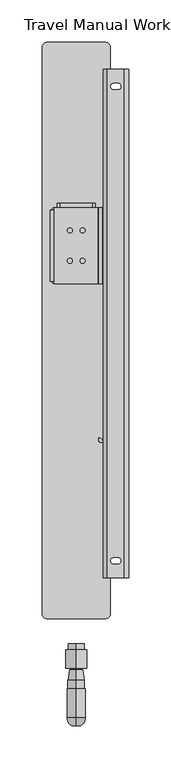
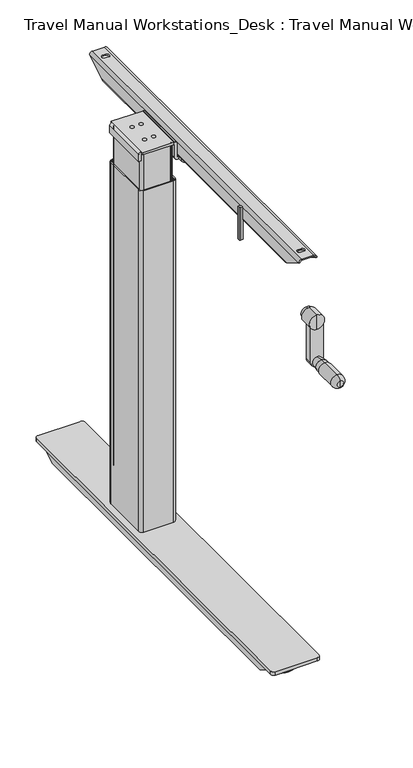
"""IFC4 building model written with IfcOpenShell, lengths in millimetres: furniture geometry, Travel Manual Workstations_Desk : Travel Manual Workstations_Desk."""

from ifc_helpers import new_model, si_unit, point, frame, frame_2d, origin, place, context, project, spatial, polyline, circle_curve, ellipse_curve, trimmed, segment, composite_curve, outline, extrude, source, transform, mapped, element, save
from ifc_brep_helpers import plane_surface, cylinder_surface, revolved_surface, advanced_brep


def travel_manual_workstations_desk_travel_manual_workstations_a020447c(model_context):
    return source(origin(), model_context, "Body", "SolidModel", [
        extrude(outline(polyline([(636.7501182, 65.2500452), (636.7501182, 154.7501055), (688.2501113, 154.7501055), (688.2501113, 65.2500452), (636.7501182, 65.2500452)]), holes=[composite_curve([segment(trimmed(circle_curve(frame_2d((670.5499704, 127.9408107)), 3.0), [point((673.5499704, 127.9408107))], [point((667.5499704, 127.9408107))], True, "CARTESIAN"), True, "CONTINUOUS"), segment(trimmed(circle_curve(frame_2d((670.5499704, 127.9408107)), 3.0), [point((667.5499704, 127.9408107))], [point((673.5499704, 127.9408107))], True, "CARTESIAN"), True, "CONTINUOUS")], self_intersect=False), composite_curve([segment(trimmed(circle_curve(frame_2d((655.5499704, 127.9408107)), 3.0), [point((658.5499704, 127.9408107))], [point((652.5499704, 127.9408107))], True, "CARTESIAN"), True, "CONTINUOUS"), segment(trimmed(circle_curve(frame_2d((655.5499704, 127.9408107)), 3.0), [point((652.5499704, 127.9408107))], [point((658.5499704, 127.9408107))], True, "CARTESIAN"), True, "CONTINUOUS")], self_intersect=False), composite_curve([segment(trimmed(circle_curve(frame_2d((670.5499704, 92.05934)), 3.0), [point((673.5499704, 92.05934))], [point((667.5499704, 92.05934))], True, "CARTESIAN"), True, "CONTINUOUS"), segment(trimmed(circle_curve(frame_2d((670.5499704, 92.05934)), 3.0), [point((667.5499704, 92.05934))], [point((673.5499704, 92.05934))], True, "CARTESIAN"), True, "CONTINUOUS")], self_intersect=False), composite_curve([segment(trimmed(circle_curve(frame_2d((655.5499704, 92.05934)), 3.0), [point((658.5499704, 92.05934))], [point((652.5499704, 92.05934))], True, "CARTESIAN"), True, "CONTINUOUS"), segment(trimmed(circle_curve(frame_2d((655.5499704, 92.05934)), 3.0), [point((652.5499704, 92.05934))], [point((658.5499704, 92.05934))], True, "CARTESIAN"), True, "CONTINUOUS")], self_intersect=False)]), frame((0.0, 0.0, 688.9999966), z_axis=(0.0, 0.0, 1.0), x_axis=(1.0, 0.0, 0.0)), (0.0, 0.0, 1.0), 3.9999739),
        extrude(outline(composite_curve([segment(polyline([(702.2500954, 166.7500998), (717.7501014, 166.7500998)]), True, "CONTINUOUS"), segment(trimmed(circle_curve(frame_2d((717.7501014, 161.7500998)), 5.0), [point((717.7501014, 166.7500998))], [point((722.7501014, 161.7500998))], False, "CARTESIAN"), True, "CONTINUOUS"), segment(polyline([(722.7501014, 161.7500998), (722.7501014, 58.2500509)]), True, "CONTINUOUS"), segment(trimmed(circle_curve(frame_2d((717.7501014, 58.2500509)), 5.0), [point((722.7501014, 58.2500509))], [point((717.7501014, 53.2500509))], False, "CARTESIAN"), True, "CONTINUOUS"), segment(polyline([(717.7501014, 53.2500509), (702.2500954, 53.2500509)]), True, "CONTINUOUS"), segment(trimmed(circle_curve(frame_2d((702.2500954, 58.2500509)), 5.0), [point((702.2500954, 53.2500509))], [point((697.2500954, 58.2500509))], False, "CARTESIAN"), True, "CONTINUOUS"), segment(polyline([(697.2500954, 58.2500509), (697.2500954, 161.7500998)]), True, "CONTINUOUS"), segment(trimmed(circle_curve(frame_2d((702.2500954, 161.7500998)), 5.0), [point((697.2500954, 161.7500998))], [point((702.2500954, 166.7500998))], False, "CARTESIAN"), True, "CONTINUOUS")], self_intersect=False), holes=[composite_curve([segment(trimmed(circle_curve(frame_2d((709.7501136, 158.5000219)), 4.4999979), [point((714.2501115, 158.5000219))], [point((705.2501158, 158.5000219))], True, "CARTESIAN"), True, "CONTINUOUS"), segment(polyline([(705.2501158, 158.5000219), (705.2501158, 153.5000364)]), True, "CONTINUOUS"), segment(trimmed(circle_curve(frame_2d((709.7501136, 153.5000364)), 4.4999979), [point((705.2501158, 153.5000364))], [point((714.2501115, 153.5000364))], True, "CARTESIAN"), True, "CONTINUOUS"), segment(polyline([(714.2501115, 153.5000364), (714.2501115, 158.5000219)]), True, "CONTINUOUS")], self_intersect=False), composite_curve([segment(polyline([(714.2501115, 61.5001287), (714.2501115, 66.5001143)]), True, "CONTINUOUS"), segment(trimmed(circle_curve(frame_2d((709.7501136, 66.5001143)), 4.4999979), [point((714.2501115, 66.5001143))], [point((705.2501158, 66.5001143))], True, "CARTESIAN"), True, "CONTINUOUS"), segment(polyline([(705.2501158, 66.5001143), (705.2501158, 61.5001287)]), True, "CONTINUOUS"), segment(trimmed(circle_curve(frame_2d((709.7501136, 61.5001287)), 4.4999979), [point((705.2501158, 61.5001287))], [point((714.2501115, 61.5001287))], True, "CARTESIAN"), True, "CONTINUOUS")], self_intersect=False)]), frame((0.0, 0.0, 660.9999615), z_axis=(0.0, 0.0, 1.0), x_axis=(1.0, 0.0, 0.0)), (0.0, 0.0, 1.0), 4.0000465),
        extrude(outline(composite_curve([segment(polyline([(677.0000023, 632.2501021), (677.0000023, 636.2501123), (688.9999704, 636.2643752), (688.9999704, 637.7501182), (692.9999704, 637.7501182), (692.9999704, 636.7501182)]), True, "CONTINUOUS"), segment(trimmed(circle_curve(frame_2d((688.4999544, 636.7501182)), 4.500016), [point((692.9999704, 636.7501182))], [point((688.4999544, 632.2501021))], False, "CARTESIAN"), True, "CONTINUOUS"), segment(polyline([(688.4999544, 632.2501021), (677.0000023, 632.2501021)]), True, "CONTINUOUS")], self_intersect=False)), frame((0.0, 68.2500074, 0.0), z_axis=(0.0, 1.0, 0.0), x_axis=(0.0, 0.0, 1.0)), (0.0, 0.0, 1.0), 83.4999905),
        advanced_brep(
        [(693.7501273, 65.2500452, 665.000008), (693.7501273, 65.2500452, 688.4999544), (689.2501113, 65.2500452, 692.9999704), (688.2501113, 65.2500452, 692.9999704), (688.2501113, 65.2500452, 688.9999966), (689.7501171, 65.2500452, 688.9999966), (689.7501171, 65.2500452, 665.4999775), (694.2500968, 65.2500452, 660.9999978), (697.2500954, 65.2500452, 660.9999615), (697.2500954, 65.2500452, 665.000008), (693.7501273, 154.7501055, 665.000008), (697.2500954, 154.7501055, 665.000008), (697.2500954, 154.7501055, 660.9999615), (694.2500968, 154.7501055, 660.9999615), (689.7501171, 154.7501055, 665.4999775), (689.7501171, 154.7501055, 688.9999966), (688.2501113, 154.7501055, 688.9999966), (688.2501113, 154.7501055, 692.9999704), (689.2501113, 154.7501055, 692.9999704), (693.7501273, 154.7501055, 688.4999544)],
        [
            (0, 1),
            (1, 2, circle_curve(frame((689.2501113, 65.2500452, 688.4999544), z_axis=(0.0, -1.0, 0.0), x_axis=(-1.0, 0.0, 0.0)), 4.500016)),
            (2, 3),
            (3, 4),
            (4, 5),
            (5, 6),
            (6, 7, circle_curve(frame((694.2500968, 65.2500452, 665.4999775), z_axis=(0.0, -1.0, 0.0), x_axis=(-1.0, 0.0, 0.0)), 4.4999797)),
            (7, 8),
            (8, 9),
            (9, 0),
            (10, 11),
            (11, 12),
            (12, 13),
            (13, 14, circle_curve(frame((694.2500968, 154.7501055, 665.4999775), z_axis=(0.0, 1.0, 0.0), x_axis=(-1.0, 0.0, 0.0)), 4.4999797)),
            (14, 15),
            (15, 16),
            (16, 17),
            (17, 18),
            (18, 19, circle_curve(frame((689.2501113, 154.7501055, 688.4999544), z_axis=(0.0, 1.0, 0.0), x_axis=(-1.0, 0.0, 0.0)), 4.500016)),
            (19, 10),
            (6, 14),
            (13, 7),
            (5, 15),
            (4, 16),
            (2, 18),
            (17, 3),
            (1, 19),
            (0, 10),
            (9, 11),
            (8, 12),
        ],
        [
            plane_surface(frame((697.2500954, 65.2500452, 665.000008), z_axis=(0.0, -1.0, 0.0), x_axis=(1.0, 0.0, 0.0))),
            plane_surface(frame((697.2500954, 154.7501055, 665.000008), z_axis=(0.0, 1.0, 0.0), x_axis=(-1.0, 0.0, 0.0))),
            cylinder_surface(frame((694.2500968, 154.7501055, 665.4999775), z_axis=(0.0, -1.0, 0.0), x_axis=(-1.0, 0.0, 0.0)), 4.4999797),
            plane_surface(frame((689.7501171, 65.2500452, 665.4999775), z_axis=(-1.0, 0.0, 0.0), x_axis=(0.0, 1.0, 0.0))),
            plane_surface(frame((689.7501171, 65.2500452, 688.9999966), z_axis=(0.0, 0.0, -1.0), x_axis=(0.0, 1.0, 0.0))),
            plane_surface(frame((688.2501113, 65.2500452, 692.9999704), z_axis=(0.0, 0.0, 1.0), x_axis=(0.0, 1.0, 0.0))),
            cylinder_surface(frame((689.2501113, 154.7501055, 688.4999544), z_axis=(0.0, -1.0, 0.0), x_axis=(-1.0, 0.0, 0.0)), 4.500016),
            plane_surface(frame((693.7501273, 65.2500452, 688.4999544), z_axis=(1.0, 0.0, 0.0), x_axis=(0.0, 1.0, 0.0))),
            plane_surface(frame((688.2501113, 65.2500452, 688.9999966), z_axis=(-1.0, 0.0, 0.0), x_axis=(0.0, 1.0, 0.0))),
            plane_surface(frame((693.7501273, 65.2500452, 665.000008), z_axis=(0.0, 0.0, 1.0), x_axis=(0.0, 1.0, 0.0))),
            plane_surface(frame((697.2500954, 65.2500452, 665.000008), z_axis=(1.0, 0.0, 0.0), x_axis=(0.0, 1.0, 0.0))),
            plane_surface(frame((697.2500954, 65.2500452, 660.9999615), z_axis=(0.0, 0.0, -1.0), x_axis=(0.0, 1.0, 0.0))),
        ],
        [
            (0, [[1, 2, 3, 4, 5, 6, 7, 8, 9, 10]]),
            (1, [[11, 12, 13, 14, 15, 16, 17, 18, 19, 20]]),
            (2, [[21, -14, 22, -7]]),
            (3, [[23, -15, -21, -6]]),
            (4, [[24, -16, -23, -5]]),
            (5, [[25, -18, 26, -3]]),
            (6, [[27, -19, -25, -2]]),
            (7, [[28, -20, -27, -1]]),
            (8, [[-26, -17, -24, -4]]),
            (9, [[29, -11, -28, -10]]),
            (10, [[30, -12, -29, -9]]),
            (11, [[-22, -13, -30, -8]]),
        ],
    ),
        advanced_brep(
        [(724.6999714, 318.0000027, 690.0000343), (722.6999714, 318.0000027, 690.0000343), (719.6999714, 318.0000027, 693.0000198), (699.7000584, 318.0000027, 693.0000198), (696.7000584, 318.0000027, 690.0000198), (694.7000584, 318.0000027, 690.0000343), (699.7000584, 318.0000027, 695.0000198), (719.6999714, 318.0000027, 695.0000198), (694.7000584, -282.0000027, 690.0000343), (696.7000584, -282.0000027, 690.0000343), (699.7000584, -282.0000027, 693.0000198), (719.6999714, -282.0000027, 693.0000198), (722.6999714, -282.0000027, 690.0000198), (724.6999714, -282.0000027, 690.0000343), (719.6999714, -282.0000027, 695.0000198), (699.7000584, -282.0000027, 695.0000198), (707.2000866, -265.4982881, 695.0000198), (707.2013302, -258.5000563, 695.0000198), (712.1989902, -258.5000563, 695.0000198), (712.1977464, -265.5000642, 695.0000198), (712.1989902, 294.4999836, 695.0000198), (707.2013302, 294.4999836, 695.0000198), (707.2000866, 301.4982154, 695.0000198), (712.1977464, 301.4999915, 695.0000198), (694.7000584, 283.3589736, 670.0000341), (694.7000584, -247.3589736, 670.0000341), (699.7000584, 274.6987164, 665.0000341), (699.7000584, -238.6987164, 665.0000341), (719.6999714, 274.6987164, 665.0000341), (719.6999714, -238.6987164, 665.0000341), (724.6999714, 283.3589736, 670.0000341), (724.6999714, -247.3589736, 670.0000341), (722.6999714, 283.3589736, 670.0000341), (722.6999714, -247.3589736, 670.0000341), (719.6999714, 278.1628193, 667.0000341), (719.6999714, -242.1628193, 667.0000341), (699.7000584, 278.1628193, 667.0000341), (699.7000584, -242.1628193, 667.0000341), (696.7000584, 283.3589736, 670.0000341), (696.7000584, -247.3589736, 670.0000341), (712.1977464, -265.5000642, 693.0000198), (712.1989902, -258.5000563, 693.0000198), (707.2013302, -258.5000563, 693.0000198), (707.2000866, -265.4982881, 693.0000198), (712.1977464, 301.4999915, 693.0000198), (707.2000866, 301.4982154, 693.0000198), (707.2013302, 294.4999836, 693.0000198), (712.1989902, 294.4999836, 693.0000198)],
        [
            (0, 1),
            (1, 2, circle_curve(frame((719.6999714, 318.0000027, 690.0000198), z_axis=(0.0, -1.0, 0.0), x_axis=(0.0, 0.0, -1.0)), 3.0)),
            (2, 3),
            (3, 4, circle_curve(frame((699.7000584, 318.0000027, 690.0000198), z_axis=(0.0, -1.0, 0.0), x_axis=(0.0, 0.0, -1.0)), 3.0)),
            (4, 5),
            (5, 6, circle_curve(frame((699.7000584, 318.0000027, 690.0000198), z_axis=(0.0, 1.0, 0.0), x_axis=(0.0, 0.0, -1.0)), 5.0)),
            (6, 7),
            (7, 0, circle_curve(frame((719.6999714, 318.0000027, 690.0000198), z_axis=(0.0, 1.0, 0.0), x_axis=(0.0, 0.0, -1.0)), 5.0)),
            (8, 9),
            (9, 10, circle_curve(frame((699.7000584, -282.0000027, 690.0000198), z_axis=(0.0, 1.0, 0.0), x_axis=(0.0, 0.0, -1.0)), 3.0)),
            (10, 11),
            (11, 12, circle_curve(frame((719.6999714, -282.0000027, 690.0000198), z_axis=(0.0, 1.0, 0.0), x_axis=(0.0, 0.0, -1.0)), 3.0)),
            (12, 13),
            (13, 14, circle_curve(frame((719.6999714, -282.0000027, 690.0000198), z_axis=(0.0, -1.0, 0.0), x_axis=(0.0, 0.0, -1.0)), 5.0)),
            (14, 15),
            (15, 8, circle_curve(frame((699.7000584, -282.0000027, 690.0000198), z_axis=(0.0, -1.0, 0.0), x_axis=(0.0, 0.0, -1.0)), 5.0)),
            (7, 14),
            (13, 0),
            (6, 15),
            (16, 17, circle_curve(frame((707.2013302, -261.9991723, 695.0000198), z_axis=(0.0, 0.0, -1.0), x_axis=(-1.0, 0.0, 0.0)), 3.499116)),
            (17, 18),
            (18, 19, circle_curve(frame((712.1989902, -262.0000603, 695.0000198), z_axis=(0.0, 0.0, -1.0), x_axis=(-1.0, 0.0, 0.0)), 3.5000041)),
            (19, 16),
            (20, 21),
            (21, 22, circle_curve(frame((707.2013302, 297.9990996, 695.0000198), z_axis=(0.0, 0.0, -1.0), x_axis=(-1.0, 0.0, 0.0)), 3.499116)),
            (22, 23),
            (23, 20, circle_curve(frame((712.1989902, 297.9999877, 695.0000198), z_axis=(0.0, 0.0, -1.0), x_axis=(-1.0, 0.0, 0.0)), 3.5000041)),
            (5, 8),
            (5, 24),
            (24, 25),
            (25, 8),
            (24, 26, ellipse_curve(frame((699.7000584, 283.3589736, 670.0000341), z_axis=(0.0, -0.4999998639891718, 0.8660254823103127), x_axis=(0.0, 0.8660254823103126, 0.49999986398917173)), 10.0000027, 5.0)),
            (26, 27),
            (27, 25, ellipse_curve(frame((699.7000584, -247.3589736, 670.0000341), z_axis=(0.0, 0.49999986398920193, 0.8660254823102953), x_axis=(0.0, 0.8660254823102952, -0.49999986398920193)), 10.0000027, 5.0)),
            (26, 28),
            (28, 29),
            (29, 27),
            (28, 30, ellipse_curve(frame((719.6999714, 283.3589736, 670.0000341), z_axis=(0.0, -0.4999998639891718, 0.8660254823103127), x_axis=(0.0, 0.8660254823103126, 0.49999986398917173)), 10.0000027, 5.0)),
            (30, 31),
            (31, 29, ellipse_curve(frame((719.6999714, -247.3589736, 670.0000341), z_axis=(0.0, 0.49999986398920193, 0.8660254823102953), x_axis=(0.0, 0.8660254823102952, -0.49999986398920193)), 10.0000027, 5.0)),
            (13, 31),
            (30, 0),
            (1, 32),
            (32, 33),
            (33, 12),
            (12, 1),
            (32, 34, ellipse_curve(frame((719.6999714, 283.3589736, 670.0000341), z_axis=(0.0, 0.4999998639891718, -0.8660254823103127), x_axis=(0.0, -0.8660254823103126, -0.49999986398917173)), 6.0000016, 3.0)),
            (34, 35),
            (35, 33, ellipse_curve(frame((719.6999714, -247.3589736, 670.0000341), z_axis=(0.0, -0.49999986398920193, -0.8660254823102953), x_axis=(0.0, -0.8660254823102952, 0.49999986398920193)), 6.0000016, 3.0)),
            (34, 36),
            (36, 37),
            (37, 35),
            (36, 38, ellipse_curve(frame((699.7000584, 283.3589736, 670.0000341), z_axis=(0.0, 0.4999998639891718, -0.8660254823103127), x_axis=(0.0, -0.8660254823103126, -0.49999986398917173)), 6.0000016, 3.0)),
            (38, 39),
            (39, 37, ellipse_curve(frame((699.7000584, -247.3589736, 670.0000341), z_axis=(0.0, -0.49999986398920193, -0.8660254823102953), x_axis=(0.0, -0.8660254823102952, 0.49999986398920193)), 6.0000016, 3.0)),
            (9, 39),
            (38, 4),
            (4, 9),
            (3, 10),
            (2, 11),
            (40, 41, circle_curve(frame((712.1989902, -262.0000603, 693.0000198), z_axis=(0.0, 0.0, 1.0), x_axis=(-1.0, 0.0, 0.0)), 3.5000041)),
            (41, 42),
            (42, 43, circle_curve(frame((707.2013302, -261.9991723, 693.0000198), z_axis=(0.0, 0.0, 1.0), x_axis=(-1.0, 0.0, 0.0)), 3.499116)),
            (43, 40),
            (44, 45),
            (45, 46, circle_curve(frame((707.2013302, 297.9990996, 693.0000198), z_axis=(0.0, 0.0, 1.0), x_axis=(-1.0, 0.0, 0.0)), 3.499116)),
            (46, 47),
            (47, 44, circle_curve(frame((712.1989902, 297.9999877, 693.0000198), z_axis=(0.0, 0.0, 1.0), x_axis=(-1.0, 0.0, 0.0)), 3.5000041)),
            (43, 16),
            (19, 40),
            (42, 17),
            (41, 18),
            (47, 20),
            (23, 44),
            (46, 21),
            (45, 22),
        ],
        [
            plane_surface(frame((149.7000397, 318.0000027, 695.0000198), z_axis=(0.0, 1.0, 0.0), x_axis=(-1.0, 0.0, 0.0))),
            plane_surface(frame((149.7000397, -282.0000027, 695.0000198), z_axis=(0.0, -1.0, 0.0), x_axis=(-1.0, 0.0, 0.0))),
            cylinder_surface(frame((719.6999714, 318.0000027, 690.0000198), z_axis=(0.0, 1.0, 0.0), x_axis=(0.0, 0.0, -1.0)), 5.0),
            plane_surface(frame((719.6999714, 318.0000027, 695.0000198), z_axis=(0.0, 0.0, 1.0), x_axis=(0.0, -1.0, 0.0))),
            cylinder_surface(frame((699.7000584, 318.0000027, 690.0000198), z_axis=(0.0, 1.0, 0.0), x_axis=(0.0, 0.0, -1.0)), 5.0),
            plane_surface(frame((694.7000584, 318.0000027, 690.0000198), z_axis=(-1.0, 0.0, 0.0), x_axis=(0.0, -1.0, 0.0))),
            cylinder_surface(frame((699.7000584, 318.0000027, 670.0000341), z_axis=(0.0, 1.0, 0.0), x_axis=(0.0, 0.0, -1.0)), 5.0),
            plane_surface(frame((699.7000584, 318.0000027, 665.0000341), z_axis=(0.0, 0.0, -1.0), x_axis=(0.0, -1.0, 0.0))),
            cylinder_surface(frame((719.6999714, 318.0000027, 670.0000341), z_axis=(0.0, 1.0, 0.0), x_axis=(0.0, 0.0, -1.0)), 5.0),
            plane_surface(frame((724.6999714, 318.0000027, 670.0000341), z_axis=(1.0, 0.0, 0.0), x_axis=(0.0, -1.0, 0.0))),
            plane_surface(frame((722.6999714, 318.0000027, 690.0000198), z_axis=(-1.0, 0.0, 0.0), x_axis=(0.0, -1.0, 0.0))),
            revolved_surface(polyline([(719.6999714, -252.5551278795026, 667.0000341), (719.6999714, 288.55512787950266, 667.0000341)]), (719.6999714, 318.0000027, 670.0000341), (0.0, -1.0, 0.0)),
            plane_surface(frame((719.6999714, 318.0000027, 667.0000341), z_axis=(0.0, 0.0, 1.0), x_axis=(0.0, -1.0, 0.0))),
            revolved_surface(polyline([(699.7000584, -252.5551278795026, 667.0000341), (699.7000584, 288.55512787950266, 667.0000341)]), (699.7000584, 318.0000027, 670.0000341), (0.0, -1.0, 0.0)),
            plane_surface(frame((696.7000584, 318.0000027, 670.0000341), z_axis=(1.0, 0.0, 0.0), x_axis=(0.0, -1.0, 0.0))),
            revolved_surface(polyline([(699.7000584, -282.0000027, 687.0000198), (699.7000584, 318.0000027, 687.0000198)]), (699.7000584, 318.0000027, 690.0000198), (0.0, -1.0, 0.0)),
            plane_surface(frame((699.7000584, 318.0000027, 693.0000198), z_axis=(0.0, 0.0, -1.0), x_axis=(0.0, -1.0, 0.0))),
            revolved_surface(polyline([(719.6999714, -282.0000027, 687.0000198), (719.6999714, 318.0000027, 687.0000198)]), (719.6999714, 318.0000027, 690.0000198), (0.0, -1.0, 0.0)),
            plane_surface(frame((712.1977464, -265.5000642, 1295.49236), z_axis=(0.0003553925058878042, 0.9999999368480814, 0.0), x_axis=(0.0, 0.0, -1.0))),
            revolved_surface(polyline([(703.7022142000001, -261.9991723, 695.0000198), (703.7022142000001, -261.9991723, 693.0000198)]), (707.2013302, -261.9991723, 0.0), (0.0, 0.0, 1.0)),
            plane_surface(frame((707.2013302, -258.5000563, 1295.49236), z_axis=(5.481694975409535e-12, -1.0, 0.0), x_axis=(0.0, 0.0, -1.0))),
            revolved_surface(polyline([(708.6989861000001, -262.0000603, 695.0000198), (708.6989861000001, -262.0000603, 693.0000198)]), (712.1989902, -262.0000603, 0.0), (0.0, 0.0, 1.0)),
            revolved_surface(polyline([(708.6989861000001, 297.9999877, 695.0000198), (708.6989861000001, 297.9999877, 693.0000198)]), (712.1989902, 297.9999877, 0.0), (0.0, 0.0, 1.0)),
            plane_surface(frame((712.1989902, 294.4999836, 1295.49236), z_axis=(0.0, 1.0, 0.0), x_axis=(0.0, 0.0, -1.0))),
            revolved_surface(polyline([(703.7022142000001, 297.9990996, 695.0000198), (703.7022142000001, 297.9990996, 693.0000198)]), (707.2013302, 297.9990996, 0.0), (0.0, 0.0, 1.0)),
            plane_surface(frame((707.2000866, 301.4982154, 1295.49236), z_axis=(0.0003553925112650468, -0.9999999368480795, 0.0), x_axis=(0.0, 0.0, -1.0))),
            plane_surface(frame((544.3887909, 318.0000027, 690.0000343), z_axis=(0.0, 0.4999998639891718, -0.8660254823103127), x_axis=(1.0, 0.0, 0.0))),
            plane_surface(frame((544.3887909, -238.6987164, 665.0000341), z_axis=(0.0, -0.49999986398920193, -0.8660254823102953), x_axis=(1.0, 0.0, 0.0))),
        ],
        [
            (0, [[1, 2, 3, 4, 5, 6, 7, 8]]),
            (1, [[9, 10, 11, 12, 13, 14, 15, 16]]),
            (2, [[17, -14, 18, -8]]),
            (3, [[19, -15, -17, -7], [20, 21, 22, 23], [24, 25, 26, 27]]),
            (4, [[28, -16, -19, -6]]),
            (5, [[29, 30, 31, -28]]),
            (6, [[32, 33, 34, -30]]),
            (7, [[35, 36, 37, -33]]),
            (8, [[38, 39, 40, -36]]),
            (9, [[41, -39, 42, -18]]),
            (10, [[43, 44, 45, 46]]),
            (11, [[47, 48, 49, -44]]),
            (12, [[50, 51, 52, -48]]),
            (13, [[53, 54, 55, -51]]),
            (14, [[56, -54, 57, 58]]),
            (15, [[59, -10, -58, -4]]),
            (16, [[60, -11, -59, -3], [61, 62, 63, 64], [65, 66, 67, 68]]),
            (17, [[-46, -12, -60, -2]]),
            (18, [[-64, 69, -23, 70]]),
            (19, [[-63, 71, -20, -69]]),
            (20, [[-62, 72, -21, -71]]),
            (21, [[-22, -72, -61, -70]]),
            (22, [[-68, 73, -27, 74]]),
            (23, [[-67, 75, -24, -73]]),
            (24, [[-66, 76, -25, -75]]),
            (25, [[-26, -76, -65, -74]]),
            (26, [[-42, -38, -35, -32, -29, -5, -57, -53, -50, -47, -43, -1]]),
            (27, [[-45, -49, -52, -55, -56, -9, -31, -34, -37, -40, -41, -13]]),
        ],
    ),
        extrude(outline(composite_curve([segment(polyline([(567.0000039, 682.5000146), (567.0000039, 643.4999969)]), True, "CONTINUOUS"), segment(trimmed(circle_curve(frame_2d((564.0000053, 643.4999969)), 2.9999986), [point((567.0000039, 643.4999969))], [point((564.0000053, 640.4999983))], False, "CARTESIAN"), True, "CONTINUOUS"), segment(polyline([(564.0000053, 640.4999983), (477.0000105, 640.4999983)]), True, "CONTINUOUS"), segment(trimmed(circle_curve(frame_2d((477.0000105, 643.4999969)), 2.9999986), [point((477.0000105, 640.4999983))], [point((474.0000119, 643.4999969))], False, "CARTESIAN"), True, "CONTINUOUS"), segment(polyline([(474.0000119, 643.4999969), (474.0000119, 682.5000146)]), True, "CONTINUOUS"), segment(trimmed(circle_curve(frame_2d((477.0000105, 682.5000146)), 2.9999986), [point((474.0000119, 682.5000146))], [point((477.0000105, 685.5000132))], False, "CARTESIAN"), True, "CONTINUOUS"), segment(polyline([(477.0000105, 685.5000132), (564.0000053, 685.5000132)]), True, "CONTINUOUS"), segment(trimmed(circle_curve(frame_2d((564.0000053, 682.5000146)), 2.9999986), [point((564.0000053, 685.5000132))], [point((567.0000039, 682.5000146))], False, "CARTESIAN"), True, "CONTINUOUS")], self_intersect=False), holes=[composite_curve([segment(polyline([(493.8501811, 650.5000056), (547.8501554, 650.5000056)]), True, "CONTINUOUS"), segment(trimmed(circle_curve(frame_2d((547.8501554, 653.5000042)), 2.9999986), [point((547.8501554, 650.5000056))], [point((550.8501539, 653.5000042))], True, "CARTESIAN"), True, "CONTINUOUS"), segment(polyline([(550.8501539, 653.5000042), (550.8501539, 672.5000072)]), True, "CONTINUOUS"), segment(trimmed(circle_curve(frame_2d((547.8501554, 672.5000072)), 2.9999986), [point((550.8501539, 672.5000072))], [point((547.8501554, 675.5000058))], True, "CARTESIAN"), True, "CONTINUOUS"), segment(polyline([(547.8501554, 675.5000058), (493.8501811, 675.5000058)]), True, "CONTINUOUS"), segment(trimmed(circle_curve(frame_2d((493.8501811, 672.5000072)), 2.9999986), [point((493.8501811, 675.5000058))], [point((490.8501825, 672.5000072))], True, "CARTESIAN"), True, "CONTINUOUS"), segment(polyline([(490.8501825, 672.5000072), (490.8501825, 653.5000042)]), True, "CONTINUOUS"), segment(trimmed(circle_curve(frame_2d((493.8501811, 653.5000042)), 2.9999986), [point((490.8501825, 653.5000042))], [point((493.8501811, 650.5000056))], True, "CARTESIAN"), True, "CONTINUOUS")], self_intersect=False), composite_curve([segment(trimmed(circle_curve(frame_2d((558.0348091, 663.0295843)), 2.5), [point((558.0348091, 665.5295843))], [point((558.0348091, 660.5295843))], True, "CARTESIAN"), True, "CONTINUOUS"), segment(trimmed(circle_curve(frame_2d((558.0348091, 663.0295843)), 2.5), [point((558.0348091, 660.5295843))], [point((558.0348091, 665.5295843))], True, "CARTESIAN"), True, "CONTINUOUS")], self_intersect=False), composite_curve([segment(trimmed(circle_curve(frame_2d((483.6655273, 663.0295843)), 2.5), [point((483.6655273, 665.5295843))], [point((483.6655273, 660.5295843))], True, "CARTESIAN"), True, "CONTINUOUS"), segment(trimmed(circle_curve(frame_2d((483.6655273, 663.0295843)), 2.5), [point((483.6655273, 660.5295843))], [point((483.6655273, 665.5295843))], True, "CARTESIAN"), True, "CONTINUOUS")], self_intersect=False)]), frame((0.0, 154.9999449, 0.0), z_axis=(0.0, 1.0, 0.0), x_axis=(0.0, 0.0, 1.0)), (0.0, 0.0, 1.0), 4.9999855),
        advanced_brep(
        [(663.0000421, -309.0016747, 4.0), (663.0000421, -304.0029246, 0.0), (663.0000421, -263.9970817, 0.0), (663.0000421, -258.9983315, 4.0), (663.0000421, -309.0016747, 6.0), (663.0000421, -258.9983315, 6.0), (663.0000421, -291.0062615, 12.5000001), (663.0000421, -276.9937448, 12.5000001), (663.0000421, -287.9984509, 12.5000001), (663.0000421, -280.0015553, 12.5000001), (663.0000421, -287.9984509, 21.9964673), (663.0000421, -280.0015553, 21.9964673), (663.0000421, -284.0000031, 21.9964673), (663.0000421, -284.0000031, 0.0)],
        [
            (0, 1),
            (1, 2, circle_curve(frame((663.0000421, -284.0000031, 0.0), z_axis=(0.0, 0.0, 1.0), x_axis=(0.0, 1.0, 0.0)), 20.0029215)),
            (2, 3),
            (3, 0, circle_curve(frame((663.0000421, -284.0000031, 4.0), z_axis=(0.0, 0.0, -1.0), x_axis=(0.0, 1.0, 0.0)), 25.0016716)),
            (2, 1, circle_curve(frame((663.0000421, -284.0000031, 0.0), z_axis=(0.0, 0.0, 1.0), x_axis=(0.0, 1.0, 0.0)), 20.0029215)),
            (0, 3, circle_curve(frame((663.0000421, -284.0000031, 4.0), z_axis=(0.0, 0.0, -1.0), x_axis=(0.0, 1.0, 0.0)), 25.0016716)),
            (4, 0),
            (3, 5),
            (5, 4, circle_curve(frame((663.0000421, -284.0000031, 6.0), z_axis=(0.0, 0.0, -1.0), x_axis=(0.0, 1.0, 0.0)), 25.0016716)),
            (4, 5, circle_curve(frame((663.0000421, -284.0000031, 6.0), z_axis=(0.0, 0.0, -1.0), x_axis=(0.0, 1.0, 0.0)), 25.0016716)),
            (6, 4),
            (5, 7),
            (7, 6, circle_curve(frame((663.0000421, -284.0000031, 12.5000001), z_axis=(0.0, 0.0, -1.0), x_axis=(0.0, 1.0, 0.0)), 7.0062584)),
            (6, 7, circle_curve(frame((663.0000421, -284.0000031, 12.5000001), z_axis=(0.0, 0.0, -1.0), x_axis=(0.0, 1.0, 0.0)), 7.0062584)),
            (8, 6),
            (7, 9),
            (9, 8, circle_curve(frame((663.0000421, -284.0000031, 12.5000001), z_axis=(0.0, 0.0, -1.0), x_axis=(0.0, 1.0, 0.0)), 3.9984478)),
            (8, 9, circle_curve(frame((663.0000421, -284.0000031, 12.5000001), z_axis=(0.0, 0.0, -1.0), x_axis=(0.0, 1.0, 0.0)), 3.9984478)),
            (10, 8),
            (9, 11),
            (11, 10, circle_curve(frame((663.0000421, -284.0000031, 21.9964673), z_axis=(0.0, 0.0, -1.0), x_axis=(0.0, 1.0, 0.0)), 3.9984478)),
            (10, 11, circle_curve(frame((663.0000421, -284.0000031, 21.9964673), z_axis=(0.0, 0.0, -1.0), x_axis=(0.0, 1.0, 0.0)), 3.9984478)),
            (12, 10),
            (11, 12),
            (1, 13),
            (13, 2),
        ],
        [
            revolved_surface(polyline([(663.0000421, -263.9970817, 0.0), (663.0000421, -258.9983315, 4.0)]), (663.0000421, -284.0000031, 21.9964673), (0.0, 0.0, 1.0)),
            cylinder_surface(frame((663.0000421, -284.0000031, 21.9964673), z_axis=(0.0, 0.0, 1.0), x_axis=(0.0, 1.0, 0.0)), 25.0016716),
            revolved_surface(polyline([(663.0000421, -258.9983315, 6.0), (663.0000421, -276.9937448, 12.5000001)]), (663.0000421, -284.0000031, 21.9964673), (0.0, 0.0, 1.0)),
            plane_surface(frame((663.0000421, -284.0000031, 12.5000001), z_axis=(0.0, 0.0, 1.0), x_axis=(0.0, 1.0, 0.0))),
            cylinder_surface(frame((663.0000421, -284.0000031, 21.9964673), z_axis=(0.0, 0.0, 1.0), x_axis=(0.0, 1.0, 0.0)), 3.9984478),
            plane_surface(frame((663.0000421, -284.0000031, 21.9964673), z_axis=(0.0, 0.0, 1.0), x_axis=(0.0, 1.0, 0.0))),
            plane_surface(frame((663.0000421, -284.0000031, 0.0), z_axis=(0.0, 0.0, -1.0), x_axis=(0.0, 1.0, 0.0))),
        ],
        [
            (0, [[1, 2, 3, 4]]),
            (0, [[-3, 5, -1, 6]]),
            (1, [[7, -4, 8, 9]]),
            (1, [[-8, -6, -7, 10]]),
            (2, [[11, -9, 12, 13]]),
            (2, [[-12, -10, -11, 14]]),
            (3, [[15, -13, 16, 17]]),
            (3, [[-16, -14, -15, 18]]),
            (4, [[19, -17, 20, 21]]),
            (4, [[-20, -18, -19, 22]]),
            (5, [[23, -21, 24]]),
            (5, [[-24, -22, -23]]),
            (6, [[25, 26, -2]]),
            (6, [[-26, -25, -5]]),
        ],
    ),
        extrude(outline(polyline([(307.2872028, 6.963252), (-287.2872662, 6.963252), (-315.0001095, 22.9632513), (334.9999008, 22.9632513), (307.2872028, 6.963252)])), frame((692.9999551, 0.0, 0.0), z_axis=(1.0, 0.0, 0.0), x_axis=(0.0, 1.0, 0.0)), (0.0, 0.0, 1.0), 6.0000335),
        extrude(outline(polyline([(692.9999551, -292.9999989), (633.00002, -292.9999989), (633.00002, -275.0000801), (692.9999551, -275.0000801), (692.9999551, -292.9999989)])), frame((0.0, 0.0, 10.9632514), z_axis=(0.0, 0.0, 1.0), x_axis=(1.0, 0.0, 0.0)), (0.0, 0.0, 1.0), 12.0),
        extrude(outline(polyline([(692.9999551, 295.0000168), (633.00002, 295.0000168), (633.00002, 312.9999355), (692.9999551, 312.9999355), (692.9999551, 295.0000168)])), frame((0.0, 0.0, 10.9632514), z_axis=(0.0, 0.0, 1.0), x_axis=(1.0, 0.0, 0.0)), (0.0, 0.0, 1.0), 12.0),
        extrude(outline(polyline([(307.2872028, 6.963252), (-287.2872662, 6.963252), (-315.0001095, 22.9632513), (334.9999008, 22.9632513), (307.2872028, 6.963252)])), frame((626.9999866, 0.0, 0.0), z_axis=(1.0, 0.0, 0.0), x_axis=(0.0, 1.0, 0.0)), (0.0, 0.0, 1.0), 6.0000335),
        extrude(outline(composite_curve([segment(trimmed(circle_curve(frame_2d((698.0000133, -325.0000805)), 4.9999855), [point((702.9999988, -325.0000805))], [point((698.0000133, -330.000066))], False, "CARTESIAN"), True, "CONTINUOUS"), segment(polyline([(698.0000133, -330.000066), (627.9999982, -330.000066)]), True, "CONTINUOUS"), segment(trimmed(circle_curve(frame_2d((627.9999982, -325.0000805)), 4.9999855), [point((627.9999982, -330.000066))], [point((623.0000127, -325.0000805))], False, "CARTESIAN"), True, "CONTINUOUS"), segment(polyline([(623.0000127, -325.0000805), (623.0000127, 345.0000172)]), True, "CONTINUOUS"), segment(trimmed(circle_curve(frame_2d((627.9999982, 345.0000172)), 4.9999855), [point((623.0000127, 345.0000172))], [point((627.9999982, 350.0000027))], False, "CARTESIAN"), True, "CONTINUOUS"), segment(polyline([(627.9999982, 350.0000027), (698.0000133, 350.0000027)]), True, "CONTINUOUS"), segment(trimmed(circle_curve(frame_2d((698.0000133, 345.0000172)), 4.9999855), [point((698.0000133, 350.0000027))], [point((702.9999988, 345.0000172))], False, "CARTESIAN"), True, "CONTINUOUS"), segment(polyline([(702.9999988, 345.0000172), (702.9999988, -325.0000805)]), True, "CONTINUOUS")], self_intersect=False)), frame((0.0, 0.0, 22.9632513), z_axis=(0.0, 0.0, 1.0), x_axis=(1.0, 0.0, 0.0)), (0.0, 0.0, 1.0), 5.9999994),
        advanced_brep(
        [(663.0000421, 278.9983409, 4.0), (663.0000421, 283.997091, 0.0), (663.0000421, 324.002934, 0.0), (663.0000421, 329.0016841, 4.0), (663.0000421, 278.9983409, 6.0), (663.0000421, 329.0016841, 6.0), (663.0000421, 296.9937541, 12.5000001), (663.0000421, 311.0062709, 12.5000001), (663.0000421, 300.0015647, 12.5000001), (663.0000421, 307.9984603, 12.5000001), (663.0000421, 300.0015647, 21.9964673), (663.0000421, 307.9984603, 21.9964673), (663.0000421, 304.0000125, 21.9964673), (663.0000421, 304.0000125, 0.0)],
        [
            (0, 1),
            (1, 2, circle_curve(frame((663.0000421, 304.0000125, 0.0), z_axis=(0.0, 0.0, 1.0), x_axis=(0.0, 1.0, 0.0)), 20.0029215)),
            (2, 3),
            (3, 0, circle_curve(frame((663.0000421, 304.0000125, 4.0), z_axis=(0.0, 0.0, -1.0), x_axis=(0.0, 1.0, 0.0)), 25.0016716)),
            (2, 1, circle_curve(frame((663.0000421, 304.0000125, 0.0), z_axis=(0.0, 0.0, 1.0), x_axis=(0.0, 1.0, 0.0)), 20.0029215)),
            (0, 3, circle_curve(frame((663.0000421, 304.0000125, 4.0), z_axis=(0.0, 0.0, -1.0), x_axis=(0.0, 1.0, 0.0)), 25.0016716)),
            (4, 0),
            (3, 5),
            (5, 4, circle_curve(frame((663.0000421, 304.0000125, 6.0), z_axis=(0.0, 0.0, -1.0), x_axis=(0.0, 1.0, 0.0)), 25.0016716)),
            (4, 5, circle_curve(frame((663.0000421, 304.0000125, 6.0), z_axis=(0.0, 0.0, -1.0), x_axis=(0.0, 1.0, 0.0)), 25.0016716)),
            (6, 4),
            (5, 7),
            (7, 6, circle_curve(frame((663.0000421, 304.0000125, 12.5000001), z_axis=(0.0, 0.0, -1.0), x_axis=(0.0, 1.0, 0.0)), 7.0062584)),
            (6, 7, circle_curve(frame((663.0000421, 304.0000125, 12.5000001), z_axis=(0.0, 0.0, -1.0), x_axis=(0.0, 1.0, 0.0)), 7.0062584)),
            (8, 6),
            (7, 9),
            (9, 8, circle_curve(frame((663.0000421, 304.0000125, 12.5000001), z_axis=(0.0, 0.0, -1.0), x_axis=(0.0, 1.0, 0.0)), 3.9984478)),
            (8, 9, circle_curve(frame((663.0000421, 304.0000125, 12.5000001), z_axis=(0.0, 0.0, -1.0), x_axis=(0.0, 1.0, 0.0)), 3.9984478)),
            (10, 8),
            (9, 11),
            (11, 10, circle_curve(frame((663.0000421, 304.0000125, 21.9964673), z_axis=(0.0, 0.0, -1.0), x_axis=(0.0, 1.0, 0.0)), 3.9984478)),
            (10, 11, circle_curve(frame((663.0000421, 304.0000125, 21.9964673), z_axis=(0.0, 0.0, -1.0), x_axis=(0.0, 1.0, 0.0)), 3.9984478)),
            (12, 10),
            (11, 12),
            (1, 13),
            (13, 2),
        ],
        [
            revolved_surface(polyline([(663.0000421, 324.002934, 0.0), (663.0000421, 329.0016841, 4.0)]), (663.0000421, 304.0000125, 21.9964673), (0.0, 0.0, 1.0)),
            cylinder_surface(frame((663.0000421, 304.0000125, 21.9964673), z_axis=(0.0, 0.0, 1.0), x_axis=(0.0, 1.0, 0.0)), 25.0016716),
            revolved_surface(polyline([(663.0000421, 329.0016841, 6.0), (663.0000421, 311.0062709, 12.5000001)]), (663.0000421, 304.0000125, 21.9964673), (0.0, 0.0, 1.0)),
            plane_surface(frame((663.0000421, 304.0000125, 12.5000001), z_axis=(0.0, 0.0, 1.0), x_axis=(0.0, 1.0, 0.0))),
            cylinder_surface(frame((663.0000421, 304.0000125, 21.9964673), z_axis=(0.0, 0.0, 1.0), x_axis=(0.0, 1.0, 0.0)), 3.9984478),
            plane_surface(frame((663.0000421, 304.0000125, 21.9964673), z_axis=(0.0, 0.0, 1.0), x_axis=(0.0, 1.0, 0.0))),
            plane_surface(frame((663.0000421, 304.0000125, 0.0), z_axis=(0.0, 0.0, -1.0), x_axis=(0.0, 1.0, 0.0))),
        ],
        [
            (0, [[1, 2, 3, 4]]),
            (0, [[-3, 5, -1, 6]]),
            (1, [[7, -4, 8, 9]]),
            (1, [[-8, -6, -7, 10]]),
            (2, [[11, -9, 12, 13]]),
            (2, [[-12, -10, -11, 14]]),
            (3, [[15, -13, 16, 17]]),
            (3, [[-16, -14, -15, 18]]),
            (4, [[19, -17, 20, 21]]),
            (4, [[-20, -18, -19, 22]]),
            (5, [[23, -21, 24]]),
            (5, [[-24, -22, -23]]),
            (6, [[25, 26, -2]]),
            (6, [[-26, -25, -5]]),
        ],
    ),
        extrude(outline(composite_curve([segment(polyline([(689.7501171, 146.7499979), (689.7501171, 73.2500074)]), True, "CONTINUOUS"), segment(trimmed(circle_curve(frame_2d((684.7501171, 73.2500074)), 5.0), [point((689.7501171, 73.2500074))], [point((684.7501171, 68.2500074))], False, "CARTESIAN"), True, "CONTINUOUS"), segment(polyline([(684.7501171, 68.2500074), (641.2498943, 68.2500074)]), True, "CONTINUOUS"), segment(trimmed(circle_curve(frame_2d((641.2498943, 73.2500074)), 5.0), [point((641.2498943, 68.2500074))], [point((636.2498943, 73.2500074))], False, "CARTESIAN"), True, "CONTINUOUS"), segment(polyline([(636.2498943, 73.2500074), (636.2498943, 146.7499979)]), True, "CONTINUOUS"), segment(trimmed(circle_curve(frame_2d((641.2498943, 146.7499979)), 5.0), [point((636.2498943, 146.7499979))], [point((641.2498943, 151.7499979))], False, "CARTESIAN"), True, "CONTINUOUS"), segment(polyline([(641.2498943, 151.7499979), (684.7501171, 151.7499979)]), True, "CONTINUOUS"), segment(trimmed(circle_curve(frame_2d((684.7501171, 146.7499979)), 5.0), [point((684.7501171, 151.7499979))], [point((689.7501171, 146.7499979))], False, "CARTESIAN"), True, "CONTINUOUS")], self_intersect=False), holes=[composite_curve([segment(trimmed(circle_curve(frame_2d((684.7501171, 146.7499979)), 3.0), [point((687.7501171, 146.7499979))], [point((684.7501171, 149.7499979))], True, "CARTESIAN"), True, "CONTINUOUS"), segment(polyline([(684.7501171, 149.7499979), (641.2498943, 149.7499979)]), True, "CONTINUOUS"), segment(trimmed(circle_curve(frame_2d((641.2498943, 146.7499979)), 3.0), [point((641.2498943, 149.7499979))], [point((638.2498943, 146.7499979))], True, "CARTESIAN"), True, "CONTINUOUS"), segment(polyline([(638.2498943, 146.7499979), (638.2498943, 73.2500074)]), True, "CONTINUOUS"), segment(trimmed(circle_curve(frame_2d((641.2498943, 73.2500074)), 3.0), [point((638.2498943, 73.2500074))], [point((641.2498943, 70.2500074))], True, "CARTESIAN"), True, "CONTINUOUS"), segment(polyline([(641.2498943, 70.2500074), (684.7501171, 70.2500074)]), True, "CONTINUOUS"), segment(trimmed(circle_curve(frame_2d((684.7501171, 73.2500074)), 3.0), [point((684.7501171, 70.2500074))], [point((687.7501171, 73.2500074))], True, "CARTESIAN"), True, "CONTINUOUS"), segment(polyline([(687.7501171, 73.2500074), (687.7501171, 146.7499979)]), True, "CONTINUOUS")], self_intersect=False)]), frame((0.0, 0.0, 96.4999873), z_axis=(0.0, 0.0, 1.0), x_axis=(1.0, 0.0, 0.0)), (0.0, 0.0, 1.0), 592.5000093),
        extrude(outline(composite_curve([segment(polyline([(692.9999187, 149.9999449), (692.9999187, 69.9999878)]), True, "CONTINUOUS"), segment(trimmed(circle_curve(frame_2d((687.9999187, 69.9999878)), 5.0), [point((692.9999187, 69.9999878))], [point((687.9999187, 64.9999878))], False, "CARTESIAN"), True, "CONTINUOUS"), segment(polyline([(687.9999187, 64.9999878), (638.0000782, 64.9999878)]), True, "CONTINUOUS"), segment(trimmed(circle_curve(frame_2d((638.0000782, 69.9999733)), 4.9999855), [point((638.0000782, 64.9999878))], [point((633.0000927, 69.9999733))], False, "CARTESIAN"), True, "CONTINUOUS"), segment(polyline([(633.0000927, 69.9999733), (633.0000927, 149.9999449)]), True, "CONTINUOUS"), segment(trimmed(circle_curve(frame_2d((638.0000927, 149.9999449)), 5.0), [point((633.0000927, 149.9999449))], [point((638.0000927, 154.9999449))], False, "CARTESIAN"), True, "CONTINUOUS"), segment(polyline([(638.0000927, 154.9999449), (687.9999187, 154.9999449)]), True, "CONTINUOUS"), segment(trimmed(circle_curve(frame_2d((687.9999187, 149.9999449)), 5.0), [point((687.9999187, 154.9999449))], [point((692.9999187, 149.9999449))], False, "CARTESIAN"), True, "CONTINUOUS")], self_intersect=False), holes=[composite_curve([segment(trimmed(circle_curve(frame_2d((638.0000782, 69.9999733)), 2.9999855), [point((635.0000927, 69.9999733))], [point((638.0000782, 66.9999878))], True, "CARTESIAN"), True, "CONTINUOUS"), segment(polyline([(638.0000782, 66.9999878), (687.9999187, 66.9999878)]), True, "CONTINUOUS"), segment(trimmed(circle_curve(frame_2d((687.9999187, 69.9999878)), 3.0), [point((687.9999187, 66.9999878))], [point((690.9999187, 69.9999878))], True, "CARTESIAN"), True, "CONTINUOUS"), segment(polyline([(690.9999187, 69.9999878), (690.9999187, 149.9999449)]), True, "CONTINUOUS"), segment(trimmed(circle_curve(frame_2d((687.9999187, 149.9999449)), 3.0), [point((690.9999187, 149.9999449))], [point((687.9999187, 152.9999449))], True, "CARTESIAN"), True, "CONTINUOUS"), segment(polyline([(687.9999187, 152.9999449), (638.0000927, 152.9999449)]), True, "CONTINUOUS"), segment(trimmed(circle_curve(frame_2d((638.0000927, 149.9999449)), 3.0), [point((638.0000927, 152.9999449))], [point((635.0000927, 149.9999449))], True, "CARTESIAN"), True, "CONTINUOUS"), segment(polyline([(635.0000927, 149.9999449), (635.0000927, 69.9999733)]), True, "CONTINUOUS")], self_intersect=False)]), frame((0.0, 0.0, 28.9632507), z_axis=(0.0, 0.0, 1.0), x_axis=(1.0, 0.0, 0.0)), (0.0, 0.0, 1.0), 597.0367493),
        advanced_brep(
        [(663.0000057, -389.0000204, 589.6460313), (663.0000057, -389.0000204, 601.7859516), (663.0000057, -390.5000015, 601.7859516), (663.0000057, -390.5000015, 589.6460313), (663.0000057, -389.0000204, 595.7159914), (663.0000057, -456.4671959, 590.4645133), (663.0000057, -456.4671959, 600.9674696), (663.0000057, -456.4671959, 595.7159914), (663.0000057, -447.2341112, 584.964522), (663.0000057, -447.2341112, 606.4674609), (663.0000057, -412.7341095, 584.964522), (663.0000057, -412.7341095, 606.4674609), (663.0000057, -412.7341095, 585.9696568), (663.0000057, -412.7341095, 605.462326), (663.0000057, -402.8741009, 585.9696568), (663.0000057, -402.8741009, 605.462326), (663.0000057, -390.5000015, 587.7916023), (663.0000057, -390.5000015, 603.6403806)],
        [
            (0, 1, circle_curve(frame((663.0000057, -389.0000204, 595.7159914), z_axis=(0.0, -1.0, 0.0), x_axis=(0.0, 0.0, 1.0)), 6.0699602)),
            (1, 2),
            (2, 3, circle_curve(frame((663.0000057, -390.5000015, 595.7159914), z_axis=(0.0, 1.0, 0.0), x_axis=(0.0, 0.0, 1.0)), 6.0699602)),
            (3, 0),
            (1, 0, circle_curve(frame((663.0000057, -389.0000204, 595.7159914), z_axis=(0.0, -1.0, 0.0), x_axis=(0.0, 0.0, 1.0)), 6.0699602)),
            (3, 2, circle_curve(frame((663.0000057, -390.5000015, 595.7159914), z_axis=(0.0, 1.0, 0.0), x_axis=(0.0, 0.0, 1.0)), 6.0699602)),
            (4, 1),
            (0, 4),
            (5, 6, circle_curve(frame((663.0000057, -456.4671959, 595.7159914), z_axis=(0.0, -1.0, 0.0), x_axis=(0.0, 0.0, 1.0)), 5.2514781)),
            (6, 7),
            (7, 5),
            (6, 5, circle_curve(frame((663.0000057, -456.4671959, 595.7159914), z_axis=(0.0, -1.0, 0.0), x_axis=(0.0, 0.0, 1.0)), 5.2514781)),
            (8, 9, circle_curve(frame((663.0000057, -447.2341112, 595.7159914), z_axis=(0.0, -1.0, 0.0), x_axis=(0.0, 0.0, 1.0)), 10.7514695)),
            (9, 6, circle_curve(frame((663.0000057, -447.2341112, 595.9674664), z_axis=(1.0, 0.0, 0.0), x_axis=(0.0, 0.0, -1.0)), 10.4999945)),
            (5, 8, circle_curve(frame((663.0000057, -447.2341112, 595.4645165), z_axis=(1.0, 0.0, 0.0), x_axis=(0.0, 0.0, 1.0)), 10.4999945)),
            (9, 8, circle_curve(frame((663.0000057, -447.2341112, 595.7159914), z_axis=(0.0, -1.0, 0.0), x_axis=(0.0, 0.0, 1.0)), 10.7514695)),
            (10, 11, circle_curve(frame((663.0000057, -412.7341095, 595.7159914), z_axis=(0.0, -1.0, 0.0), x_axis=(0.0, 0.0, 1.0)), 10.7514695)),
            (11, 9),
            (8, 10),
            (11, 10, circle_curve(frame((663.0000057, -412.7341095, 595.7159914), z_axis=(0.0, -1.0, 0.0), x_axis=(0.0, 0.0, 1.0)), 10.7514695)),
            (12, 13, circle_curve(frame((663.0000057, -412.7341095, 595.7159914), z_axis=(0.0, -1.0, 0.0), x_axis=(0.0, 0.0, 1.0)), 9.7463346)),
            (13, 11),
            (10, 12),
            (13, 12, circle_curve(frame((663.0000057, -412.7341095, 595.7159914), z_axis=(0.0, -1.0, 0.0), x_axis=(0.0, 0.0, 1.0)), 9.7463346)),
            (14, 15, circle_curve(frame((663.0000057, -402.8741009, 595.7159914), z_axis=(0.0, -1.0, 0.0), x_axis=(0.0, 0.0, 1.0)), 9.7463346)),
            (15, 13),
            (12, 14),
            (15, 14, circle_curve(frame((663.0000057, -402.8741009, 595.7159914), z_axis=(0.0, -1.0, 0.0), x_axis=(0.0, 0.0, 1.0)), 9.7463346)),
            (16, 17, circle_curve(frame((663.0000057, -390.5000015, 595.7159914), z_axis=(0.0, -1.0, 0.0), x_axis=(0.0, 0.0, 1.0)), 7.9243891)),
            (17, 15),
            (14, 16),
            (17, 16, circle_curve(frame((663.0000057, -390.5000015, 595.7159914), z_axis=(0.0, -1.0, 0.0), x_axis=(0.0, 0.0, 1.0)), 7.9243891)),
            (2, 17),
            (16, 3),
        ],
        [
            cylinder_surface(frame((663.0000057, -389.0000204, 595.7159914), z_axis=(0.0, 1.0, 0.0), x_axis=(0.0, 0.0, 1.0)), 6.0699602),
            plane_surface(frame((663.0000057, -389.0000204, 595.7159914), z_axis=(0.0, 1.0, 0.0), x_axis=(0.0, 0.0, 1.0))),
            plane_surface(frame((663.0000057, -456.4671959, 595.7159914), z_axis=(0.0, -1.0, 0.0), x_axis=(0.0, 0.0, 1.0))),
            revolved_surface(trimmed(ellipse_curve(frame((663.0000057, -447.2341112, 595.9674664), z_axis=(-1.0, 0.0, 0.0), x_axis=(0.0, 0.0, -1.0)), 10.4999945, 10.4999945), [point((663.0000057, -456.4671959, 600.9674696))], [point((663.0000057, -447.2341112, 606.4674609))], True, "CARTESIAN"), (663.0000057, -389.0000204, 595.7159914), (0.0, 1.0, 0.0)),
            cylinder_surface(frame((663.0000057, -389.0000204, 595.7159914), z_axis=(0.0, 1.0, 0.0), x_axis=(0.0, 0.0, 1.0)), 10.7514695),
            plane_surface(frame((663.0000057, -412.7341095, 595.7159914), z_axis=(0.0, 1.0, 0.0), x_axis=(0.0, 0.0, 1.0))),
            cylinder_surface(frame((663.0000057, -389.0000204, 595.7159914), z_axis=(0.0, 1.0, 0.0), x_axis=(0.0, 0.0, 1.0)), 9.7463346),
            revolved_surface(polyline([(663.0000057, -402.8741009, 605.462326), (663.0000057, -390.5000015, 603.6403806)]), (663.0000057, -389.0000204, 595.7159914), (0.0, 1.0, 0.0)),
            plane_surface(frame((663.0000057, -390.5000015, 595.7159914), z_axis=(0.0, 1.0, 0.0), x_axis=(0.0, 0.0, 1.0))),
        ],
        [
            (0, [[1, 2, 3, 4]]),
            (0, [[5, -4, 6, -2]]),
            (1, [[7, -1, 8]]),
            (1, [[-8, -5, -7]]),
            (2, [[9, 10, 11]]),
            (2, [[12, -11, -10]]),
            (3, [[13, 14, -9, 15]]),
            (3, [[16, -15, -12, -14]]),
            (4, [[17, 18, -13, 19]]),
            (4, [[20, -19, -16, -18]]),
            (5, [[21, 22, -17, 23]]),
            (5, [[24, -23, -20, -22]]),
            (6, [[25, 26, -21, 27]]),
            (6, [[28, -27, -24, -26]]),
            (7, [[29, 30, -25, 31]]),
            (7, [[32, -31, -28, -30]]),
            (8, [[-3, 33, -29, 34]]),
            (8, [[-6, -34, -32, -33]]),
        ],
    ),
        advanced_brep(
        [(663.0000057, -389.0000204, 650.4675005), (663.0000057, -389.0000204, 675.467428), (663.0000057, -389.0000204, 662.9674643), (663.0000057, -366.9999825, 650.4675005), (663.0000057, -366.9999825, 675.467428), (663.0000057, -366.9999825, 653.342107), (663.0000057, -366.9999825, 672.5928215), (663.0000057, -359.9999737, 653.342107), (663.0000057, -359.9999737, 672.5928215), (663.0000057, -359.9999737, 662.9674643)],
        [
            (0, 1, circle_curve(frame((663.0000057, -389.0000204, 662.9674643), z_axis=(0.0, -1.0, 0.0), x_axis=(0.0, 0.0, 1.0)), 12.4999638)),
            (1, 2),
            (2, 0),
            (1, 0, circle_curve(frame((663.0000057, -389.0000204, 662.9674643), z_axis=(0.0, -1.0, 0.0), x_axis=(0.0, 0.0, 1.0)), 12.4999638)),
            (3, 4, circle_curve(frame((663.0000057, -366.9999825, 662.9674643), z_axis=(0.0, -1.0, 0.0), x_axis=(0.0, 0.0, 1.0)), 12.4999638)),
            (4, 1),
            (0, 3),
            (4, 3, circle_curve(frame((663.0000057, -366.9999825, 662.9674643), z_axis=(0.0, -1.0, 0.0), x_axis=(0.0, 0.0, 1.0)), 12.4999638)),
            (5, 6, circle_curve(frame((663.0000057, -366.9999825, 662.9674643), z_axis=(0.0, -1.0, 0.0), x_axis=(0.0, 0.0, 1.0)), 9.6253572)),
            (6, 4),
            (3, 5),
            (6, 5, circle_curve(frame((663.0000057, -366.9999825, 662.9674643), z_axis=(0.0, -1.0, 0.0), x_axis=(0.0, 0.0, 1.0)), 9.6253572)),
            (7, 8, circle_curve(frame((663.0000057, -359.9999737, 662.9674643), z_axis=(0.0, -1.0, 0.0), x_axis=(0.0, 0.0, 1.0)), 9.6253572)),
            (8, 6),
            (5, 7),
            (8, 7, circle_curve(frame((663.0000057, -359.9999737, 662.9674643), z_axis=(0.0, -1.0, 0.0), x_axis=(0.0, 0.0, 1.0)), 9.6253572)),
            (9, 8),
            (7, 9),
        ],
        [
            plane_surface(frame((663.0000057, -389.0000204, 662.9674643), z_axis=(0.0, -1.0, 0.0), x_axis=(0.0, 0.0, 1.0))),
            cylinder_surface(frame((663.0000057, -359.9999737, 662.9674643), z_axis=(0.0, 1.0, 0.0), x_axis=(0.0, 0.0, 1.0)), 12.4999638),
            plane_surface(frame((663.0000057, -366.9999825, 662.9674643), z_axis=(0.0, 1.0, 0.0), x_axis=(0.0, 0.0, 1.0))),
            cylinder_surface(frame((663.0000057, -359.9999737, 662.9674643), z_axis=(0.0, 1.0, 0.0), x_axis=(0.0, 0.0, 1.0)), 9.6253572),
            plane_surface(frame((663.0000057, -359.9999737, 662.9674643), z_axis=(0.0, 1.0, 0.0), x_axis=(0.0, 0.0, 1.0))),
        ],
        [
            (0, [[1, 2, 3]]),
            (0, [[4, -3, -2]]),
            (1, [[5, 6, -1, 7]]),
            (1, [[8, -7, -4, -6]]),
            (2, [[9, 10, -5, 11]]),
            (2, [[12, -11, -8, -10]]),
            (3, [[13, 14, -9, 15]]),
            (3, [[16, -15, -12, -14]]),
            (4, [[17, -13, 18]]),
            (4, [[-18, -16, -17]]),
        ],
    ),
        extrude(outline(composite_curve([segment(polyline([(656.6270714, 652.2570201), (595.9134081, 652.5074045)]), True, "CONTINUOUS"), segment(trimmed(circle_curve(frame_2d((595.9134081, 663.0070543)), 10.4996498), [point((595.9134081, 652.5074045))], [point((595.9134081, 673.5067041))], False, "CARTESIAN"), True, "CONTINUOUS"), segment(polyline([(595.9134081, 673.5067041), (656.6270714, 673.7570885)]), True, "CONTINUOUS"), segment(trimmed(circle_curve(frame_2d((662.9962896, 663.0070543)), 12.4952062), [point((656.6270714, 673.7570885))], [point((656.6270714, 652.2570201))], True, "CARTESIAN"), True, "CONTINUOUS")], self_intersect=False)), frame((0.0, -389.0000204, 0.0), z_axis=(0.0, 1.0, 0.0), x_axis=(0.0, 0.0, 1.0)), (0.0, 0.0, 1.0), 11.9999943),
        extrude(outline(composite_curve([segment(trimmed(circle_curve(frame_2d((689.7545496, -121.9831772)), 4.9999855), [point((689.7545496, -116.9831917))], [point((694.7545351, -121.9831772))], False, "CARTESIAN"), True, "CONTINUOUS"), segment(polyline([(694.7545351, -121.9831772), (690.7545249, -121.9831772)]), True, "CONTINUOUS"), segment(trimmed(circle_curve(frame_2d((689.7545496, -121.9831772)), 0.9999753), [point((690.7545249, -121.9831772))], [point((689.7545496, -120.9832019))], True, "CARTESIAN"), True, "CONTINUOUS"), segment(polyline([(689.7545496, -120.9832019), (689.7545496, -116.9831917)]), True, "CONTINUOUS")], self_intersect=False)), frame((0.0, 0.0, 634.5000063), z_axis=(0.0, 0.0, 1.0), x_axis=(1.0, 0.0, 0.0)), (0.0, 0.0, 1.0), 57.0000092),
    ])


if __name__ == "__main__":
    model = new_model("IFC4")
    model_context = context("Model", 3, world=origin())
    ifc_project = project(units=[si_unit("LENGTHUNIT", "METRE", prefix="MILLI")], contexts=[model_context])
    site = spatial("IfcSite", under=ifc_project)
    building = spatial("IfcBuilding", under=site)
    placement = place(None, origin())
    travel_manual_workstations_desk_travel_manual_workstations_shape = travel_manual_workstations_desk_travel_manual_workstations_a020447c(model_context)
    element("IfcFurniture", 1, ObjectType="Travel Manual Workstations_Desk : Travel Manual Workstations_Desk", at=placement, inside=building, context=model_context, shape_type="MappedRepresentation", body=[
        mapped(travel_manual_workstations_desk_travel_manual_workstations_shape, transform((0.0, 0.0, 0.0), x_axis=(1.0, 0.0, 0.0), y_axis=(0.0, 1.0, 0.0), z_axis=(0.0, 0.0, 1.0))),
    ])
    save(model, "model.ifc")
